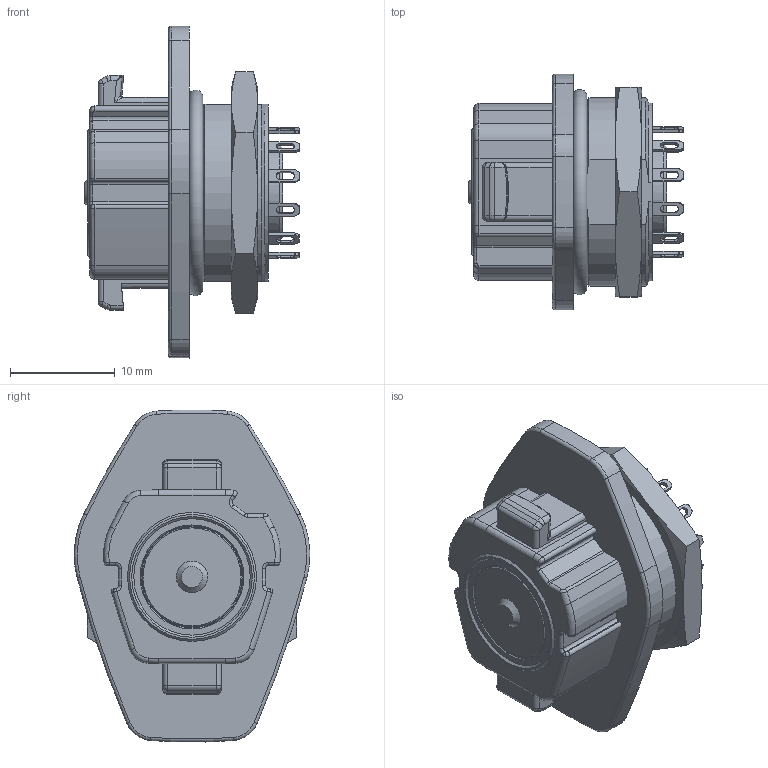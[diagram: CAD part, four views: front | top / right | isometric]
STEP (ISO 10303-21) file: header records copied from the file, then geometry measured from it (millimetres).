
FILE_DESCRIPTION(/* description */ (''),/* implementation_level */ '2;1');
FILE_NAME(/* name */ '09 1724 000 12 002_00-FD_12pol.stp',/* time_stamp */ '2018-12-17T11:58:13+01:00',/* author */ (''),/* organization */ (''),/* preprocessor_version */ 'ST-DEVELOPER v16',/* originating_system */ 'SIEMENS PLM Software NX 11.0',/* authorisation */ '');
FILE_SCHEMA (('AUTOMOTIVE_DESIGN { 1 0 10303 214 3 1 1 1 }'));
Length unit declared in the file: millimetre
Products named in the file (1): rhen26B8269Dvge7
Bounding box: 20.5 x 22.47 x 31.66 mm (x, y, z)
Volume: 5092.9 mm3; surface area: 2761.1 mm2
Topology: 1 solids, 2 shells, 716 faces, 1941 edges, 1247 vertices
Faces by surface type: plane 386, cylinder 206, extrusion 48, torus 29, cone 23, bspline 20, sphere 4
Full cylindrical faces by diameter (mm): 9.1 x1, 15 x1
Entity records: 23548 total; most frequent: CARTESIAN_POINT 5469, ORIENTED_EDGE 3834, DIRECTION 3645, EDGE_CURVE 1917, VECTOR 1245, VERTEX_POINT 1237, AXIS2_PLACEMENT_3D 1200, LINE 1197
